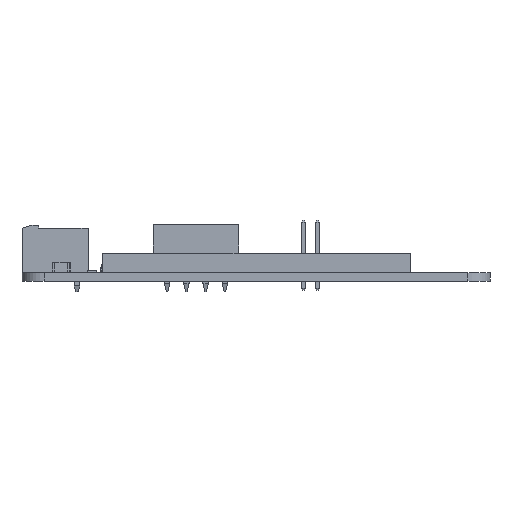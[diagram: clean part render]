
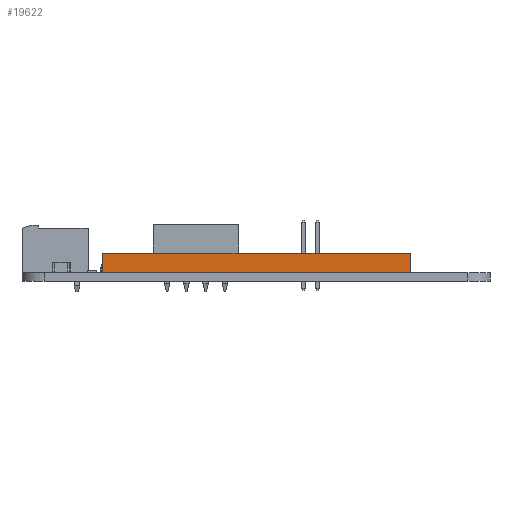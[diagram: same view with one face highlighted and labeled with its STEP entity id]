
A CAD part, front view. The second image highlights one B-rep face of the part: STEP entity #19622.
In plain terms, the highlighted planar face has unit normal (0, -1, 0) as drawn and (0, 0, -1) by its records, which use the part's own axes.
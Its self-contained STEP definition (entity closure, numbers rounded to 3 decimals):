
#12025 = VERTEX_POINT('',#12026);
#12026 = CARTESIAN_POINT('',(-27.94,3.505,-2.54));
#12032 = EDGE_CURVE('',#12025,#12033,#12035,.T.);
#12033 = VERTEX_POINT('',#12034);
#12034 = CARTESIAN_POINT('',(-27.94,0.,-2.54));
#12035 = LINE('',#12036,#12037);
#12036 = CARTESIAN_POINT('',(-27.94,3.505,-2.54));
#12037 = VECTOR('',#12038,1.);
#12038 = DIRECTION('',(0.,-1.,0.));
#12122 = VERTEX_POINT('',#12123);
#12123 = CARTESIAN_POINT('',(27.94,0.,-2.54));
#12129 = EDGE_CURVE('',#12130,#12122,#12132,.T.);
#12130 = VERTEX_POINT('',#12131);
#12131 = CARTESIAN_POINT('',(27.94,3.505,-2.54));
#12132 = LINE('',#12133,#12134);
#12133 = CARTESIAN_POINT('',(27.94,3.505,-2.54));
#12134 = VECTOR('',#12135,1.);
#12135 = DIRECTION('',(0.,-1.,0.));
#17341 = EDGE_CURVE('',#12130,#12025,#17342,.T.);
#17342 = LINE('',#17343,#17344);
#17343 = CARTESIAN_POINT('',(27.94,3.505,-2.54));
#17344 = VECTOR('',#17345,1.);
#17345 = DIRECTION('',(-1.,0.,0.));
#19622 = ADVANCED_FACE('',(#19623),#19634,.F.);
#19623 = FACE_BOUND('',#19624,.T.);
#19624 = EDGE_LOOP('',(#19625,#19631,#19632,#19633));
#19625 = ORIENTED_EDGE('',*,*,#19626,.T.);
#19626 = EDGE_CURVE('',#12122,#12033,#19627,.T.);
#19627 = LINE('',#19628,#19629);
#19628 = CARTESIAN_POINT('',(27.94,0.,-2.54));
#19629 = VECTOR('',#19630,1.);
#19630 = DIRECTION('',(-1.,0.,0.));
#19631 = ORIENTED_EDGE('',*,*,#12032,.F.);
#19632 = ORIENTED_EDGE('',*,*,#17341,.F.);
#19633 = ORIENTED_EDGE('',*,*,#12129,.T.);
#19634 = PLANE('',#19635);
#19635 = AXIS2_PLACEMENT_3D('',#19636,#19637,#19638);
#19636 = CARTESIAN_POINT('',(27.94,3.505,-2.54));
#19637 = DIRECTION('',(0.,0.,1.));
#19638 = DIRECTION('',(1.,0.,0.));
